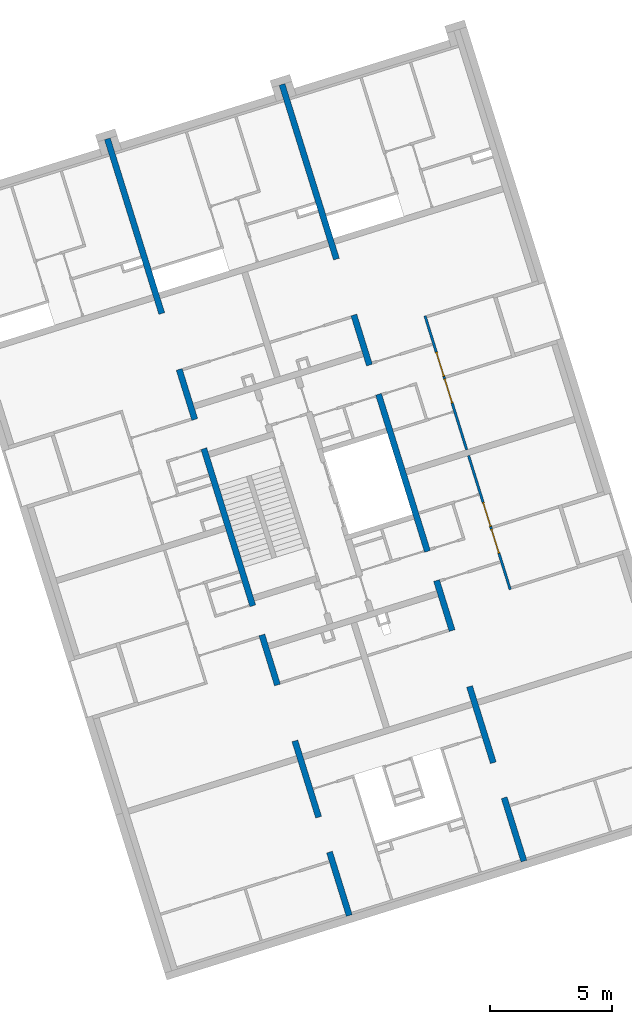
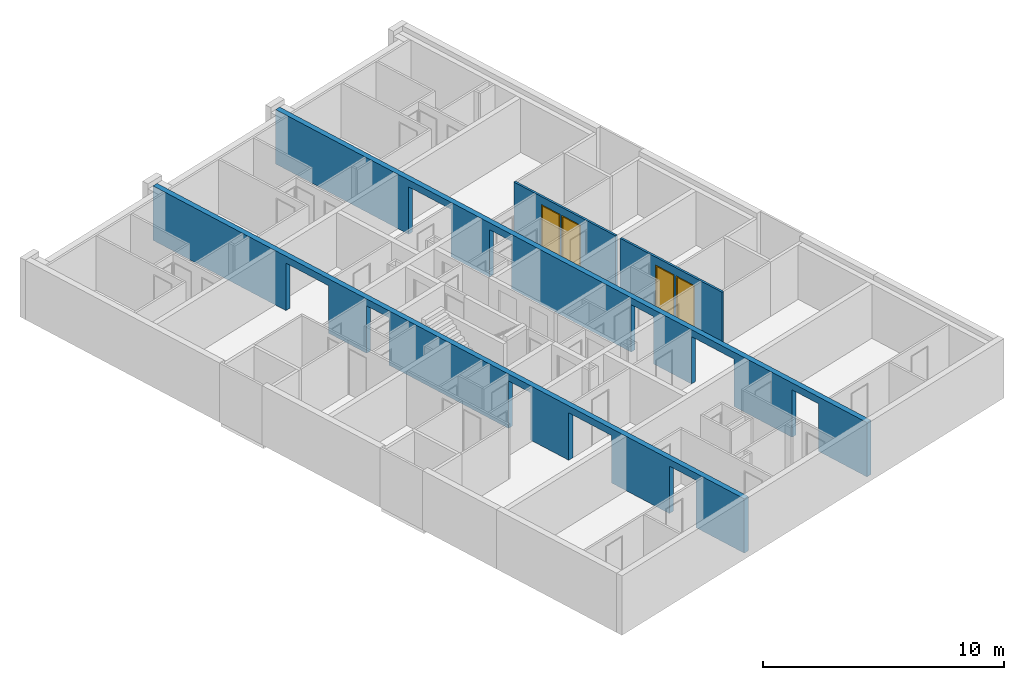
# One storey, part 11 of 12: 4 doors, 4 walls, 14 openings.
"""IFC4 building model written with IfcOpenShell, lengths in metres."""

from ifc_helpers import new_model, entity, si_unit, converted_unit, direction, frame, origin, place, context, subcontext, project, spatial, indexed_curve, outline, extrude, polygons, source, transform, mapped, material, constituent, constituent_set, type_object, type_shapes, element, fill, save


model = new_model("IFC4")

# Units and contexts
model_context = context("Model", 3, precision=1e-05, world=origin(), true_north=direction((6.12323399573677e-17, 1.0)))
body_context = subcontext(model_context, "Body", "Model", "MODEL_VIEW")
ifc_project = project(units=[si_unit("LENGTHUNIT", "METRE"), si_unit("AREAUNIT", "SQUARE_METRE"), converted_unit("PLANEANGLEUNIT", "DEGREE", entity("IfcPlaneAngleMeasure", 0.0174532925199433), si_unit("PLANEANGLEUNIT", "RADIAN"), dimensions=[0, 0, 0, 0, 0, 0, 0]), si_unit("VOLUMEUNIT", "CUBIC_METRE")], contexts=[model_context])

# Site, building, storey
site_placement = place(None, frame((13.1347999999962, 11.9886000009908, 0.0), z_axis=(0.0, 0.0, 1.0), x_axis=(0.954770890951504, 0.297342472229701, 0.0)))
site = spatial("IfcSite", under=ifc_project, at=site_placement, Name="Schiehaven", CompositionType="ELEMENT")
building_placement = place(site_placement, origin())
building = spatial("IfcBuilding", under=site, at=building_placement, Name="VORM huis", CompositionType="ELEMENT")
storey_placement = place(building_placement, frame((0.0, 0.0, 3.9)))
storey = spatial("IfcBuildingStorey", under=building, at=storey_placement, Name="01 eerste verdieping", CompositionType="ELEMENT", Elevation=3.9)

# Wall, openings
ifc_material_1 = material(Name="beton_gewapend_ihw", Category="Miscellaneous")
wall_type_1 = type_object("IfcWallType", Name="Basic Wall:28_WA_skelet_wand 250mm_gen", PredefinedType="STANDARD")
wall_1_placement = place(storey_placement, frame((72.5000000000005, 0.375000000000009, 0.0), z_axis=(0.0, 0.0, 1.0), x_axis=(0.0, 1.0, 0.0)))
wall_1 = element("IfcWall", 1, at=wall_1_placement, inside=storey, type_object=wall_type_1, material=ifc_material_1, Name="Constructieve wand", ObjectType="Wand", PredefinedType="NOTDEFINED", context=body_context, shape_type="Tessellation", body=[
    polygons([(33.3500000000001, -0.125000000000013, -5.41433564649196e-16), (33.3500000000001, -0.125000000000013, 2.75), (4.06075173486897e-16, -0.125000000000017, 2.75), (4.06075173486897e-16, -0.125000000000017, -5.41433564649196e-16), (2.72514640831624, -0.125000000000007, -5.41433564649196e-16), (2.72514640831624, -0.125000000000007, 2.4), (4.22514640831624, -0.125000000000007, 2.4), (4.22514640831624, -0.125000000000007, -5.41433564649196e-16), (7.49999999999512, -0.125000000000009, -5.41433564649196e-16), (7.49999999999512, -0.125000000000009, 2.4), (9.9, -0.125000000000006, 2.4), (9.9, -0.125000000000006, -5.41433564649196e-16), (12.0499999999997, -0.125000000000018, -5.41433564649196e-16), (12.0499999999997, -0.125000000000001, 2.4), (13.2999999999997, -0.124999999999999, 2.4), (13.2999999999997, -0.125000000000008, -5.41433564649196e-16), (20.0500000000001, -0.125000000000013, -5.41433564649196e-16), (20.0500000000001, -0.125000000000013, 2.4), (21.3000000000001, -0.125000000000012, 2.4), (21.3000000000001, -0.125000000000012, -5.41433564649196e-16), (23.4499999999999, -0.125000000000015, -5.41433564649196e-16), (23.4499999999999, -0.124999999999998, 2.4), (25.8499999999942, -0.125000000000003, 2.4), (25.8499999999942, -0.125000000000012, -5.41433564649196e-16), (33.3500000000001, 0.124999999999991, 2.75), (33.3500000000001, 0.124999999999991, -5.41433564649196e-16), (25.8499999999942, 0.125, -5.41433564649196e-16), (25.8499999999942, 0.125, 2.4), (23.4499999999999, 0.124999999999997, 2.4), (23.4499999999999, 0.124999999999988, -5.41433564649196e-16), (21.95, 0.124999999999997, 0.0), (21.7, 0.124999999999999, 0.0), (21.3000000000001, 0.124999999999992, -5.41433564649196e-16), (21.3000000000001, 0.124999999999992, 2.4), (20.0500000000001, 0.124999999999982, 2.4), (20.0500000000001, 0.124999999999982, -5.41433564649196e-16), (13.2999999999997, 0.125000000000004, -5.41433564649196e-16), (13.2999999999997, 0.125000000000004, 2.4), (12.0499999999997, 0.124999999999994, 2.4), (12.0499999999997, 0.124999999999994, -5.41433564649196e-16), (11.65, 0.124999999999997, 0.0), (11.4, 0.124999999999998, 0.0), (9.9, 0.124999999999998, -5.41433564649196e-16), (9.9, 0.124999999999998, 2.4), (7.49999999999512, 0.124999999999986, 2.4), (7.49999999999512, 0.124999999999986, -5.41433564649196e-16), (4.22514640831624, 0.124999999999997, -5.41433564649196e-16), (4.22514640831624, 0.124999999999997, 2.4), (2.72514640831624, 0.124999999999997, 2.4), (2.72514640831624, 0.124999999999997, -5.41433564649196e-16), (5.41433564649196e-16, 0.124999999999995, -5.41433564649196e-16), (5.41433564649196e-16, 0.124999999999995, 2.75), (11.4, 0.124999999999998, 2.75), (11.65, 0.124999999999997, 2.75), (21.7, 0.124999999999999, 2.75), (21.95, 0.124999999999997, 2.75)], [[[1, 2, 3, 4, 5, 6, 7, 8, 9, 10, 11, 12, 13, 14, 15, 16, 17, 18, 19, 20, 21, 22, 23, 24]], [[25, 26, 27, 28, 29, 30, 31, 32, 33, 34, 35, 36, 37, 38, 39, 40, 41, 42, 43, 44, 45, 46, 47, 48, 49, 50, 51, 52, 53, 54, 55, 56]], [[4, 51, 50, 5]], [[2, 1, 26, 25]], [[3, 2, 25, 56, 55, 54, 53, 52]], [[4, 3, 52, 51]], [[45, 10, 9, 46]], [[11, 44, 43, 12]], [[10, 45, 44, 11]], [[14, 39, 38, 15]], [[39, 14, 13, 40]], [[15, 38, 37, 16]], [[18, 35, 34, 19]], [[35, 18, 17, 36]], [[19, 34, 33, 20]], [[22, 29, 28, 23]], [[29, 22, 21, 30]], [[23, 28, 27, 24]], [[6, 49, 48, 7]], [[49, 6, 5, 50]], [[7, 48, 47, 8]], [[12, 43, 42, 41, 40, 13]], [[16, 37, 36, 17]], [[20, 33, 32, 31, 30, 21]], [[26, 1, 24, 27]], [[46, 9, 8, 47]]], closed=True),
])
opening_1_placement = place(wall_1_placement, origin())
element("IfcOpeningElement", 2, at=opening_1_placement, cuts=wall_1, Name="Constructieve wand", PredefinedType="OPENING", context=body_context, shape_type="SweptSolid", body=[
    extrude(outline(indexed_curve([(-1.2, -1.20000000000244), (1.2, -1.20000000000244), (1.2, 1.20000000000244), (-1.2, 1.20000000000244), (-1.2, -1.20000000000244)], self_intersect=False)), frame((8.69999999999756, -0.124999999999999, 1.2), z_axis=(0.0, 1.0, 0.0), x_axis=(0.0, 0.0, -1.0)), (0.0, 0.0, 1.0), 0.249999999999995),
])
opening_2_placement = place(wall_1_placement, origin())
element("IfcOpeningElement", 3, at=opening_2_placement, cuts=wall_1, Name="Constructieve wand", PredefinedType="OPENING", context=body_context, shape_type="SweptSolid", body=[
    extrude(outline(indexed_curve([(-1.2, -0.625000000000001), (1.2, -0.625000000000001), (1.2, 0.625000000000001), (-1.2, 0.625000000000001), (-1.2, -0.625000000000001)], self_intersect=False)), frame((12.6749999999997, -0.124999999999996, 1.2), z_axis=(0.0, 1.0, 0.0), x_axis=(0.0, 0.0, -1.0)), (0.0, 0.0, 1.0), 0.249999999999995),
])
opening_3_placement = place(wall_1_placement, origin())
element("IfcOpeningElement", 4, at=opening_3_placement, cuts=wall_1, Name="Constructieve wand", PredefinedType="OPENING", context=body_context, shape_type="SweptSolid", body=[
    extrude(outline(indexed_curve([(-1.2, -0.624999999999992), (1.2, -0.624999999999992), (1.2, 0.624999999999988), (-1.2, 0.624999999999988), (-1.2, -0.624999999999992)], self_intersect=False)), frame((20.6750000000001, -0.124999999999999, 1.2), z_axis=(0.0, 1.0, 0.0), x_axis=(0.0, 0.0, -1.0)), (0.0, 0.0, 1.0), 0.249999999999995),
])
opening_4_placement = place(wall_1_placement, origin())
element("IfcOpeningElement", 5, at=opening_4_placement, cuts=wall_1, Name="Constructieve wand", PredefinedType="OPENING", context=body_context, shape_type="SweptSolid", body=[
    extrude(outline(indexed_curve([(-1.2, -1.19999999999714), (1.2, -1.19999999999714), (1.2, 1.19999999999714), (-1.2, 1.19999999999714), (-1.2, -1.19999999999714)], self_intersect=False)), frame((24.6499999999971, -0.124999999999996, 1.2), z_axis=(0.0, 1.0, 0.0), x_axis=(0.0, 0.0, -1.0)), (0.0, 0.0, 1.0), 0.249999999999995),
])
opening_5_placement = place(wall_1_placement, origin())
element("IfcOpeningElement", 6, at=opening_5_placement, cuts=wall_1, Name="Constructieve wand", PredefinedType="OPENING", context=body_context, shape_type="SweptSolid", body=[
    extrude(outline(indexed_curve([(-1.2, -0.75), (1.2, -0.75), (1.2, 0.75), (-1.2, 0.75), (-1.2, -0.75)], self_intersect=False)), frame((3.47514640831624, -0.125000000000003, 1.2), z_axis=(0.0, 1.0, 0.0), x_axis=(0.0, 0.0, -1.0)), (0.0, 0.0, 1.0), 0.249999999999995),
])

wall_2_placement = place(storey_placement, frame((65.0, 33.725, 0.0), z_axis=(0.0, 0.0, 1.0), x_axis=(0.0, -1.0, 0.0)))
wall_2 = element("IfcWall", 7, at=wall_2_placement, inside=storey, type_object=wall_type_1, material=ifc_material_1, Name="Constructieve wand", ObjectType="Wand", PredefinedType="NOTDEFINED", context=body_context, shape_type="Tessellation", body=[
    polygons([(33.35, -0.125000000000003, -5.41433564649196e-16), (33.35, -0.125000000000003, 2.75), (4.33146851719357e-15, -0.125000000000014, 2.75), (4.33146851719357e-15, -0.125000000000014, -5.41433564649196e-16), (7.50000000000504, -0.125000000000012, -5.41433564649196e-16), (7.50000000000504, -0.124999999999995, 2.4), (9.90000000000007, -0.125000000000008, 2.4), (9.90000000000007, -0.125000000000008, -5.41433564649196e-16), (12.0499999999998, -0.125000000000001, -5.41433564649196e-16), (12.0499999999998, -0.125000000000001, 2.4), (13.2999999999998, -0.125000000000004, 2.4), (13.2999999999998, -0.125000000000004, -5.41433564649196e-16), (20.0500000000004, -0.125000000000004, -5.41433564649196e-16), (20.0500000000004, -0.125000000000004, 2.4), (21.3000000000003, -0.125000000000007, 2.4), (21.3000000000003, -0.125000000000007, -5.41433564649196e-16), (23.45, -0.125, -5.41433564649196e-16), (23.45, -0.124999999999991, 2.4), (25.8500000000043, -0.125000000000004, 2.4), (25.8500000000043, -0.125000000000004, -5.41433564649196e-16), (29.1248535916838, -0.124999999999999, -5.41433564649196e-16), (29.1248535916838, -0.124999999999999, 2.4), (30.6248535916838, -0.124999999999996, 2.4), (30.6248535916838, -0.125000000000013, -5.41433564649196e-16), (33.35, 0.125000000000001, 2.75), (33.35, 0.125000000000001, -5.41433564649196e-16), (30.6248535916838, 0.125, -5.41433564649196e-16), (30.6248535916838, 0.125, 2.4), (29.1248535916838, 0.125000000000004, 2.4), (29.1248535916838, 0.125000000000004, -5.41433564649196e-16), (25.8500000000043, 0.124999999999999, -5.41433564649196e-16), (25.8500000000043, 0.124999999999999, 2.4), (23.45, 0.125000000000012, 2.4), (23.45, 0.125000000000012, -5.41433564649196e-16), (21.95, 0.125, 0.0), (21.7, 0.125000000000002, 0.0), (21.3000000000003, 0.124999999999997, -5.41433564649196e-16), (21.3000000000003, 0.124999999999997, 2.4), (20.0500000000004, 0.124999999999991, 2.4), (20.0500000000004, 0.124999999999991, -5.41433564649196e-16), (13.2999999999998, 0.125, -5.41433564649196e-16), (13.2999999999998, 0.125, 2.4), (12.0499999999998, 0.124999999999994, 2.4), (12.0499999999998, 0.124999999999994, -5.41433564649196e-16), (11.65, 0.124999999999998, 0.0), (11.4, 0.125, 0.0), (9.90000000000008, 0.124999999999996, -5.41433564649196e-16), (9.90000000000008, 0.124999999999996, 2.4), (7.50000000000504, 0.125, 2.4), (7.50000000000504, 0.125, -5.41433564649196e-16), (4.33146851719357e-15, 0.124999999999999, -5.41433564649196e-16), (4.33146851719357e-15, 0.124999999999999, 2.75), (11.4, 0.125, 2.75), (11.65, 0.124999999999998, 2.75), (21.7, 0.125000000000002, 2.75), (21.95, 0.125, 2.75)], [[[1, 2, 3, 4, 5, 6, 7, 8, 9, 10, 11, 12, 13, 14, 15, 16, 17, 18, 19, 20, 21, 22, 23, 24]], [[25, 26, 27, 28, 29, 30, 31, 32, 33, 34, 35, 36, 37, 38, 39, 40, 41, 42, 43, 44, 45, 46, 47, 48, 49, 50, 51, 52, 53, 54, 55, 56]], [[4, 51, 50, 5]], [[2, 1, 26, 25]], [[3, 2, 25, 56, 55, 54, 53, 52]], [[4, 3, 52, 51]], [[6, 49, 48, 7]], [[49, 6, 5, 50]], [[7, 48, 47, 8]], [[10, 43, 42, 11]], [[43, 10, 9, 44]], [[11, 42, 41, 12]], [[18, 33, 32, 19]], [[33, 18, 17, 34]], [[19, 32, 31, 20]], [[14, 39, 38, 15]], [[39, 14, 13, 40]], [[15, 38, 37, 16]], [[22, 29, 28, 23]], [[29, 22, 21, 30]], [[23, 28, 27, 24]], [[8, 47, 46, 45, 44, 9]], [[12, 41, 40, 13]], [[20, 31, 30, 21]], [[26, 1, 24, 27]], [[34, 17, 16, 37, 36, 35]]], closed=True),
])
opening_6_placement = place(wall_2_placement, origin())
element("IfcOpeningElement", 8, at=opening_6_placement, cuts=wall_2, Name="Constructieve wand", PredefinedType="OPENING", context=body_context, shape_type="SweptSolid", body=[
    extrude(outline(indexed_curve([(-1.2, -1.19999999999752), (1.2, -1.19999999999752), (1.2, 1.19999999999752), (-1.2, 1.19999999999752), (-1.2, -1.19999999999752)], self_intersect=False)), frame((8.70000000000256, -0.124999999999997, 1.2), z_axis=(0.0, 1.0, 0.0), x_axis=(0.0, 0.0, -1.0)), (0.0, 0.0, 1.0), 0.249999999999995),
])
opening_7_placement = place(wall_2_placement, origin())
element("IfcOpeningElement", 9, at=opening_7_placement, cuts=wall_2, Name="Constructieve wand", PredefinedType="OPENING", context=body_context, shape_type="SweptSolid", body=[
    extrude(outline(indexed_curve([(-1.2, -0.624999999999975), (1.2, -0.624999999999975), (1.2, 0.624999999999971), (-1.2, 0.624999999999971), (-1.2, -0.624999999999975)], self_intersect=False)), frame((12.6749999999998, -0.12499999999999, 1.2), z_axis=(0.0, 1.0, 0.0), x_axis=(0.0, 0.0, -1.0)), (0.0, 0.0, 1.0), 0.249999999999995),
])
opening_8_placement = place(wall_2_placement, origin())
element("IfcOpeningElement", 10, at=opening_8_placement, cuts=wall_2, Name="Constructieve wand", PredefinedType="OPENING", context=body_context, shape_type="SweptSolid", body=[
    extrude(outline(indexed_curve([(-1.2, -1.20000000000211), (1.2, -1.20000000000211), (1.2, 1.20000000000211), (-1.2, 1.20000000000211), (-1.2, -1.20000000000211)], self_intersect=False)), frame((24.6500000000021, -0.124999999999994, 1.2), z_axis=(0.0, 1.0, 0.0), x_axis=(0.0, 0.0, -1.0)), (0.0, 0.0, 1.0), 0.249999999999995),
])
opening_9_placement = place(wall_2_placement, origin())
element("IfcOpeningElement", 11, at=opening_9_placement, cuts=wall_2, Name="Constructieve wand", PredefinedType="OPENING", context=body_context, shape_type="SweptSolid", body=[
    extrude(outline(indexed_curve([(-1.2, -0.624999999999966), (1.2, -0.624999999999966), (1.2, 0.624999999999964), (-1.2, 0.624999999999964), (-1.2, -0.624999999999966)], self_intersect=False)), frame((20.6750000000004, -0.124999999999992, 1.2), z_axis=(0.0, 1.0, 0.0), x_axis=(0.0, 0.0, -1.0)), (0.0, 0.0, 1.0), 0.249999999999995),
])
opening_10_placement = place(wall_2_placement, origin())
element("IfcOpeningElement", 12, at=opening_10_placement, cuts=wall_2, Name="Constructieve wand", PredefinedType="OPENING", context=body_context, shape_type="SweptSolid", body=[
    extrude(outline(indexed_curve([(-1.2, -0.750000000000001), (1.2, -0.750000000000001), (1.2, 0.750000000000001), (-1.2, 0.750000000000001), (-1.2, -0.750000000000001)], self_intersect=False)), frame((29.8748535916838, -0.124999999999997, 1.2), z_axis=(0.0, 1.0, 0.0), x_axis=(0.0, 0.0, -1.0)), (0.0, 0.0, 1.0), 0.249999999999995),
])

# Wall, openings, doors
ifc_material_2 = material(Name="ntb_ntb_ntb", Category="Miscellaneous")
wall_type_2 = type_object("IfcWallType", Name="Basic Wall:22_WA_afbouw_binnenwand 100mm_gen", PredefinedType="STANDARD")
wall_3_placement = place(storey_placement, frame((75.2749999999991, 16.9249999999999, 0.0), z_axis=(0.0, 0.0, 1.0), x_axis=(0.0, -1.0, 0.0)))
wall_3 = element("IfcWall", 13, at=wall_3_placement, inside=storey, type_object=wall_type_2, material=ifc_material_2, Name="Binnenwand", ObjectType="Wand", PredefinedType="NOTDEFINED", context=body_context, shape_type="Tessellation", body=[
    polygons([(3.04999999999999, -0.0500000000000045, -5.41433564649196e-16), (3.14999999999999, -0.0500000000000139, -5.41433564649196e-16), (3.14999999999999, -0.0500000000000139, 2.34999999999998), (4.2, -0.0500000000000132, 2.34999999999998), (4.2, -0.0500000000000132, -5.41433564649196e-16), (4.50000000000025, -0.0500000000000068, 0.0), (4.60000000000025, -0.0500000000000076, 0.0), (5.75, -0.049999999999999, -5.41433564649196e-16), (5.75, -0.049999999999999, 2.75), (4.60000000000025, -0.0500000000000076, 2.75), (4.50000000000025, -0.0500000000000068, 2.75), (1.7, -0.0500000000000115, 2.75), (1.6, -0.0500000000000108, 2.75), (0.0, -0.0500000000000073, 2.75), (0.0, -0.0500000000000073, -5.41433564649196e-16), (1.6, -0.0500000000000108, 0.0), (1.7, -0.0500000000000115, 0.0), (1.99999999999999, -0.0500000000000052, -5.41433564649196e-16), (1.99999999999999, -0.0500000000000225, 2.34999999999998), (3.04999999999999, -0.0500000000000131, 2.34999999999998), (3.14999999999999, 0.049999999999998, 2.34999999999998), (3.14999999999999, 0.049999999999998, -5.41433564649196e-16), (3.04999999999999, 0.0499999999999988, -5.41433564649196e-16), (3.04999999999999, 0.0499999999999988, 2.34999999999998), (1.99999999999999, 0.0499999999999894, 2.34999999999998), (1.99999999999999, 0.0499999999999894, -5.41433564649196e-16), (0.0, 0.049999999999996, -5.41433564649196e-16), (0.0, 0.049999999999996, 2.75), (3.05, 0.0499999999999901, 2.75), (3.15, 0.0499999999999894, 2.75), (5.65, 0.0499999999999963, 2.75), (5.75, 0.0499999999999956, 2.75), (5.75, 0.0499999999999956, -5.41433564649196e-16), (5.65, 0.0499999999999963, 0.0), (4.2, 0.04999999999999, -5.41433564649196e-16), (4.2, 0.04999999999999, 2.34999999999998)], [[[1, 2, 3, 4, 5, 6, 7, 8, 9, 10, 11, 12, 13, 14, 15, 16, 17, 18, 19, 20]], [[21, 22, 23, 24, 25, 26, 27, 28, 29, 30, 31, 32, 33, 34, 35, 36]], [[15, 27, 26, 18, 17, 16]], [[14, 13, 12, 11, 10, 9, 32, 31, 30, 29, 28]], [[15, 14, 28, 27]], [[20, 24, 23, 1]], [[25, 19, 18, 26]], [[24, 20, 19, 25]], [[5, 4, 36, 35]], [[3, 2, 22, 21]], [[4, 3, 21, 36]], [[9, 8, 33, 32]], [[23, 22, 2, 1]], [[35, 34, 33, 8, 7, 6, 5]]], closed=True),
])
opening_11_placement = place(wall_3_placement, frame((3.04999999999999, 0.0500000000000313, 0.0)))
opening_11 = element("IfcOpeningElement", 14, at=opening_11_placement, cuts=wall_3, Name="Binnendeur", PredefinedType="OPENING", context=body_context, shape_type="SweptSolid", body=[
    extrude(outline(indexed_curve([(2.34999999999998, 1.08286712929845e-15), (2.34999999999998, 1.05), (0.0, 1.05), (0.0, 1.08286712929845e-15), (2.34999999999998, 1.08286712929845e-15)], self_intersect=False)), frame((0.0, 0.0, 0.0), z_axis=(0.0, -1.0, 0.0), x_axis=(0.0, 0.0, 1.0)), (0.0, 0.0, 1.0), 0.1),
])
opening_12_placement = place(wall_3_placement, frame((4.2, 0.0500000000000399, 0.0)))
opening_12 = element("IfcOpeningElement", 15, at=opening_12_placement, cuts=wall_3, Name="Binnendeur", PredefinedType="OPENING", context=body_context, shape_type="SweptSolid", body=[
    extrude(outline(indexed_curve([(2.34999999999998, 1.08286712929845e-15), (2.34999999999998, 1.05), (0.0, 1.05), (0.0, 1.08286712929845e-15), (2.34999999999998, 1.08286712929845e-15)], self_intersect=False)), frame((0.0, 0.0, 0.0), z_axis=(0.0, -1.0, 0.0), x_axis=(0.0, 0.0, 1.0)), (0.0, 0.0, 1.0), 0.1),
])
ifc_material_3 = material(Name="PD_a_binnenwandopeningen", Category="Miscellaneous")
ifc_constituent_1 = constituent(ifc_material_3, Name="PD_a_binnenwandopeningen", Category="Miscellaneous")
ifc_material_4 = material(Name="metaal_aluminium_ntb", Category="Miscellaneous")
ifc_constituent_2 = constituent(ifc_material_4, Name="metaal_aluminium_ntb", Category="Miscellaneous")
ifc_constituent_set_1 = constituent_set(constituents=[ifc_constituent_1, ifc_constituent_2])
ifc_constituent_3 = constituent(ifc_material_3, Name="PD_a_binnenwandopeningen", Category="Miscellaneous")
ifc_constituent_4 = constituent(ifc_material_4, Name="Panel", Category="Miscellaneous")
ifc_constituent_set_2 = constituent_set(constituents=[ifc_constituent_3, ifc_constituent_4])
door_type_1 = type_object("IfcDoorType", Name="32_DO_binnendeur enkel:binnendeur", OperationType="REVOLVING", PredefinedType="DOOR", material=ifc_constituent_set_2)
shared_shape_1 = source(origin(), body_context, "Body", "SweptSolid", [
    extrude(outline(indexed_curve([(0.475, -1.16249999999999), (0.525, -1.16249999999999), (0.525, 1.18749999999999), (-0.525, 1.18749999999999), (-0.525, -1.16249999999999), (-0.475, -1.16249999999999), (-0.475, 1.13749999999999), (0.475, 1.13749999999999), (0.475, -1.16249999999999)], self_intersect=False)), frame((0.525000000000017, 0.100000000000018, 1.16249999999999), z_axis=(0.0, -1.0, 0.0), x_axis=(1.0, 0.0, 0.0)), (0.0, 0.0, 1.0), 0.1),
    extrude(outline(indexed_curve([(-0.475, -0.025), (0.475, -0.025), (0.475, 0.025), (-0.475, 0.025), (-0.475, -0.025)], self_intersect=False)), frame((0.525000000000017, 0.0499999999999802, 0.0)), (0.0, 0.0, 1.0), 2.29999999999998),
])
type_shapes(door_type_1, [shared_shape_1])
door_1_placement = place(opening_11_placement, frame((0.0, 0.0, 0.0), z_axis=(0.0, 0.0, 1.0), x_axis=(-1.0, 0.0, 0.0)))
door_1 = element("IfcDoor", 16, at=door_1_placement, inside=storey, type_object=door_type_1, material=ifc_constituent_set_1, Name="Binnendeur", ObjectType="Deur", OperationType="REVOLVING", OverallHeight=2.34999999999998, OverallWidth=1.05, PredefinedType="DOOR", context=body_context, shape_type="MappedRepresentation", body=[
    mapped(shared_shape_1, transform((0.0, 0.0, 0.0), scale=1.0)),
])
fill(opening_11, door_1)
ifc_constituent_5 = constituent(ifc_material_3, Name="PD_a_binnenwandopeningen", Category="Miscellaneous")
ifc_constituent_6 = constituent(ifc_material_4, Name="metaal_aluminium_ntb", Category="Miscellaneous")
ifc_constituent_set_3 = constituent_set(constituents=[ifc_constituent_5, ifc_constituent_6])
door_2_placement = place(opening_12_placement, frame((0.0, 0.0, 0.0), z_axis=(0.0, 0.0, 1.0), x_axis=(-1.0, 0.0, 0.0)))
door_2 = element("IfcDoor", 17, at=door_2_placement, inside=storey, type_object=door_type_1, material=ifc_constituent_set_3, Name="Binnendeur", ObjectType="Deur", OperationType="REVOLVING", OverallHeight=2.34999999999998, OverallWidth=1.05, PredefinedType="DOOR", context=body_context, shape_type="MappedRepresentation", body=[
    mapped(shared_shape_1, transform((0.0, 0.0, 0.0), scale=1.0)),
])
fill(opening_12, door_2)

wall_4_placement = place(storey_placement, frame((75.2749999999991, 17.1749999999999, 0.0), z_axis=(0.0, 0.0, 1.0), x_axis=(0.0, 1.0, 0.0)))
wall_4 = element("IfcWall", 18, at=wall_4_placement, inside=storey, type_object=wall_type_2, material=ifc_material_2, Name="Binnenwand", ObjectType="Wand", PredefinedType="NOTDEFINED", context=body_context, shape_type="Tessellation", body=[
    polygons([(3.05, -0.0500000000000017, -5.41433564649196e-16), (3.15, -0.050000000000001, -5.41433564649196e-16), (3.15, -0.050000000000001, 2.34999999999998), (4.2, -0.0500000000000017, 2.34999999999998), (4.2, -0.0500000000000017, -5.41433564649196e-16), (5.65, -0.0500000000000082, 0.0), (5.75, -0.0499999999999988, -5.41433564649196e-16), (5.75, -0.0499999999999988, 2.75), (5.65, -0.0500000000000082, 2.75), (3.15, -0.050000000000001, 2.75), (3.05, -0.0500000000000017, 2.75), (2.16573425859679e-15, -0.0500000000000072, 2.75), (2.16573425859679e-15, -0.0500000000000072, -5.41433564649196e-16), (1.99999999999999, -0.0500000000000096, -5.41433564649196e-16), (1.99999999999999, -0.0500000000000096, 2.34999999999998), (3.05, -0.0500000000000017, 2.34999999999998), (3.15, 0.0500000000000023, 2.34999999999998), (3.15, 0.0500000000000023, -5.41433564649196e-16), (3.04999999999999, 0.0500000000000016, -5.41433564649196e-16), (3.04999999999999, 0.0500000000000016, 2.34999999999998), (2.0, 0.0500000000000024, 2.34999999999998), (2.0, 0.0499999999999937, -5.41433564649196e-16), (1.70000000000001, 0.0500000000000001, 0.0), (1.60000000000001, 0.0499999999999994, 0.0), (0.0, 0.0500000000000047, -5.41433564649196e-16), (0.0, 0.0500000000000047, 2.75), (1.60000000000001, 0.0499999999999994, 2.75), (1.70000000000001, 0.0500000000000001, 2.75), (4.50000000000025, 0.0499999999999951, 2.75), (4.60000000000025, 0.0499999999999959, 2.75), (5.75, 0.0499999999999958, 2.75), (5.75, 0.0499999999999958, -5.41433564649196e-16), (4.60000000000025, 0.0499999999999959, 0.0), (4.50000000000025, 0.0499999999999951, 0.0), (4.2, 0.0500000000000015, -5.41433564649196e-16), (4.2, 0.0500000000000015, 2.34999999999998)], [[[1, 2, 3, 4, 5, 6, 7, 8, 9, 10, 11, 12, 13, 14, 15, 16]], [[17, 18, 19, 20, 21, 22, 23, 24, 25, 26, 27, 28, 29, 30, 31, 32, 33, 34, 35, 36]], [[13, 25, 24, 23, 22, 14]], [[12, 11, 10, 9, 8, 31, 30, 29, 28, 27, 26]], [[13, 12, 26, 25]], [[16, 20, 19, 1]], [[21, 15, 14, 22]], [[20, 16, 15, 21]], [[5, 4, 36, 35]], [[3, 2, 18, 17]], [[4, 3, 17, 36]], [[8, 7, 32, 31]], [[19, 18, 2, 1]], [[35, 34, 33, 32, 7, 6, 5]]], closed=True),
])
opening_13_placement = place(wall_4_placement, frame((2.0, -0.0500000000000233, 0.0)))
opening_13 = element("IfcOpeningElement", 19, at=opening_13_placement, cuts=wall_4, Name="Binnendeur", PredefinedType="OPENING", context=body_context, shape_type="SweptSolid", body=[
    extrude(outline(indexed_curve([(2.34999999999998, 1.05), (0.0, 1.05), (0.0, 0.0), (2.34999999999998, 0.0), (2.34999999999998, 1.05)], self_intersect=False)), frame((0.0, 0.0, 0.0), z_axis=(0.0, 1.0, 0.0), x_axis=(0.0, 0.0, 1.0)), (0.0, 0.0, 1.0), 0.1),
])
opening_14_placement = place(wall_4_placement, frame((3.15, -0.0500000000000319, 0.0)))
opening_14 = element("IfcOpeningElement", 20, at=opening_14_placement, cuts=wall_4, Name="Binnendeur", PredefinedType="OPENING", context=body_context, shape_type="SweptSolid", body=[
    extrude(outline(indexed_curve([(2.34999999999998, 1.05), (0.0, 1.05), (0.0, 0.0), (2.34999999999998, 0.0), (2.34999999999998, 1.05)], self_intersect=False)), frame((0.0, 0.0, 0.0), z_axis=(0.0, 1.0, 0.0), x_axis=(0.0, 0.0, 1.0)), (0.0, 0.0, 1.0), 0.1),
])
ifc_constituent_7 = constituent(ifc_material_3, Name="PD_a_binnenwandopeningen", Category="Miscellaneous")
ifc_constituent_8 = constituent(ifc_material_4, Name="metaal_aluminium_ntb", Category="Miscellaneous")
ifc_constituent_set_4 = constituent_set(constituents=[ifc_constituent_7, ifc_constituent_8])
ifc_constituent_9 = constituent(ifc_material_3, Name="PD_a_binnenwandopeningen", Category="Miscellaneous")
ifc_constituent_10 = constituent(ifc_material_4, Name="Panel", Category="Miscellaneous")
ifc_constituent_set_5 = constituent_set(constituents=[ifc_constituent_9, ifc_constituent_10])
door_type_2 = type_object("IfcDoorType", Name="32_DO_binnendeur enkel:binnendeur", OperationType="REVOLVING", PredefinedType="DOOR", material=ifc_constituent_set_5)
shared_shape_2 = source(origin(), body_context, "Body", "SweptSolid", [
    extrude(outline(indexed_curve([(-1.16249999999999, -0.525000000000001), (1.18749999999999, -0.525), (1.18749999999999, 0.525), (-1.16249999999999, 0.525), (-1.16249999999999, 0.475), (1.13749999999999, 0.475), (1.13749999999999, -0.475), (-1.16249999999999, -0.475), (-1.16249999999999, -0.525000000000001)], self_intersect=False)), frame((0.525000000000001, 0.0, 1.16249999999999), z_axis=(0.0, 1.0, 0.0), x_axis=(0.0, 0.0, 1.0)), (0.0, 0.0, 1.0), 0.1),
    extrude(outline(indexed_curve([(-0.025, -0.475), (0.025, -0.475), (0.025, 0.475), (-0.025, 0.475), (-0.025, -0.475)], self_intersect=False)), frame((0.525000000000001, 0.0499999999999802, 0.0), z_axis=(0.0, 0.0, 1.0), x_axis=(0.0, 1.0, 0.0)), (0.0, 0.0, 1.0), 2.29999999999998),
])
type_shapes(door_type_2, [shared_shape_2])
door_3_placement = place(opening_13_placement, origin())
door_3 = element("IfcDoor", 21, at=door_3_placement, inside=storey, type_object=door_type_2, material=ifc_constituent_set_4, Name="Binnendeur", ObjectType="Deur", OperationType="REVOLVING", OverallHeight=2.34999999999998, OverallWidth=1.05, PredefinedType="DOOR", context=body_context, shape_type="MappedRepresentation", body=[
    mapped(shared_shape_2, transform((0.0, 0.0, 0.0), scale=1.0)),
])
fill(opening_13, door_3)
ifc_constituent_11 = constituent(ifc_material_3, Name="PD_a_binnenwandopeningen", Category="Miscellaneous")
ifc_constituent_12 = constituent(ifc_material_4, Name="metaal_aluminium_ntb", Category="Miscellaneous")
ifc_constituent_set_6 = constituent_set(constituents=[ifc_constituent_11, ifc_constituent_12])
door_4_placement = place(opening_14_placement, origin())
door_4 = element("IfcDoor", 22, at=door_4_placement, inside=storey, type_object=door_type_2, material=ifc_constituent_set_6, Name="Binnendeur", ObjectType="Deur", OperationType="REVOLVING", OverallHeight=2.34999999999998, OverallWidth=1.05, PredefinedType="DOOR", context=body_context, shape_type="MappedRepresentation", body=[
    mapped(shared_shape_2, transform((0.0, 0.0, 0.0), scale=1.0)),
])
fill(opening_14, door_4)

save(model, "model.ifc")
